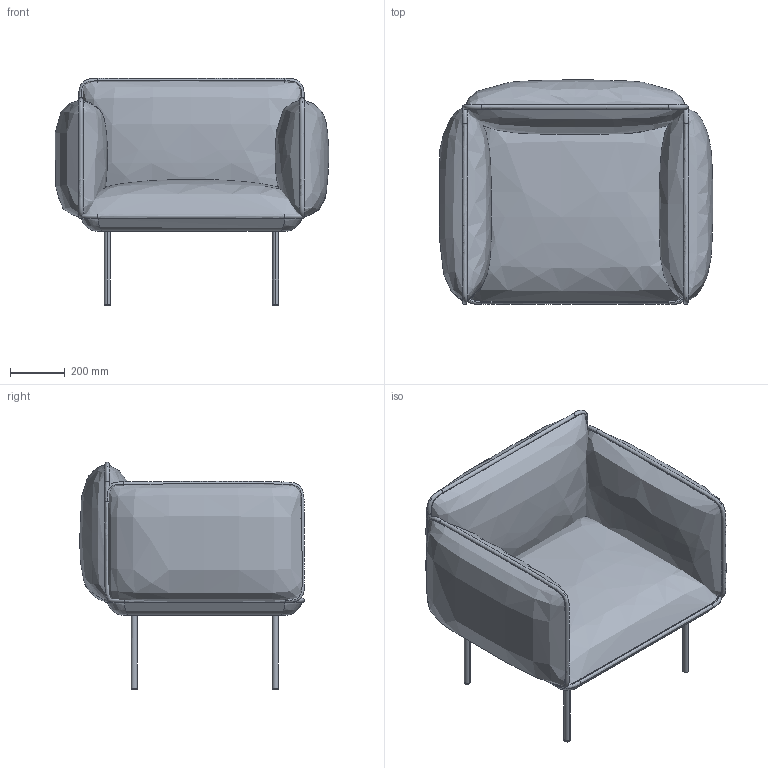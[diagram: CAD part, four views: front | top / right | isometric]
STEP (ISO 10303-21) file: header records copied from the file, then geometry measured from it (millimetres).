
FILE_DESCRIPTION(/* description */ (''),/* implementation_level */ '2;1');
FILE_NAME(/* name */ 'Nakki_1 seater',/* time_stamp */ '2020-04-03T17:16:10+02:00',/* author */ (''),/* organization */ (''),/* preprocessor_version */ 'ST-DEVELOPER v15',/* originating_system */ '',/* authorisation */ '');
FILE_SCHEMA (('AUTOMOTIVE_DESIGN'));
Length unit declared in the file: millimetre
Products named in the file (1): Document
Bounding box: 995.48 x 817.98 x 827.32 mm (x, y, z)
Volume: 230612577.4 mm3; surface area: 4318718.8 mm2
Topology: 15 solids, 15 shells, 100 faces, 192 edges, 120 vertices
Faces by surface type: bspline 100
Entity records: 18131 total; most frequent: CARTESIAN_POINT 15615, B_SPLINE_CURVE_WITH_KNOTS 392, ORIENTED_EDGE 384, PCURVE 384, DEFINITIONAL_REPRESENTATION 384, SURFACE_CURVE 192, EDGE_CURVE 192, VERTEX_POINT 120
